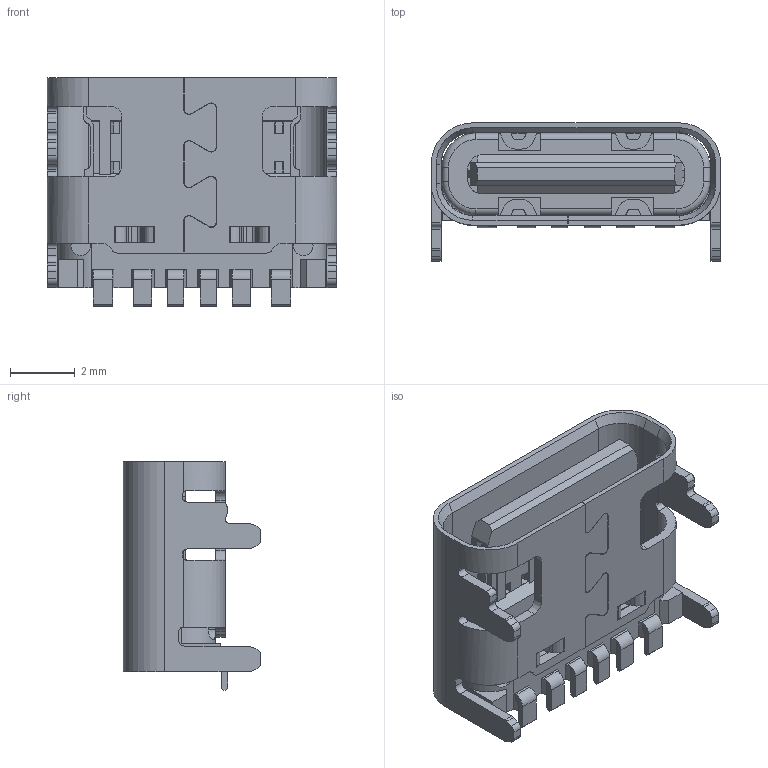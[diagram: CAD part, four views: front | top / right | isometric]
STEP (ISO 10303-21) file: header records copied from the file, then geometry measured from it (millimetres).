
FILE_DESCRIPTION((''),'2;1');
FILE_NAME('6PIN_','2021-12-22T',('Administrator'),(''),'PRO/ENGINEER BY PARAMETRIC TECHNOLOGY CORPORATION, 2010480','PRO/ENGINEER BY PARAMETRIC TECHNOLOGY CORPORATION, 2010480','');
FILE_SCHEMA(('CONFIG_CONTROL_DESIGN'));
Length unit declared in the file: millimetre
Products named in the file (1): 6PIN_
Bounding box: 8.94 x 4.26 x 7.07 mm (x, y, z)
Volume: 92.8 mm3; surface area: 461.5 mm2
Topology: 1 solids, 3 shells, 722 faces, 2107 edges, 1380 vertices
Faces by surface type: plane 525, cylinder 146, extrusion 39, cone 8, torus 4
Entity records: 24739 total; most frequent: CARTESIAN_POINT 5613, ORIENTED_EDGE 4208, DIRECTION 3641, EDGE_CURVE 2104, VECTOR 1695, LINE 1656, VERTEX_POINT 1380, AXIS2_PLACEMENT_3D 973
